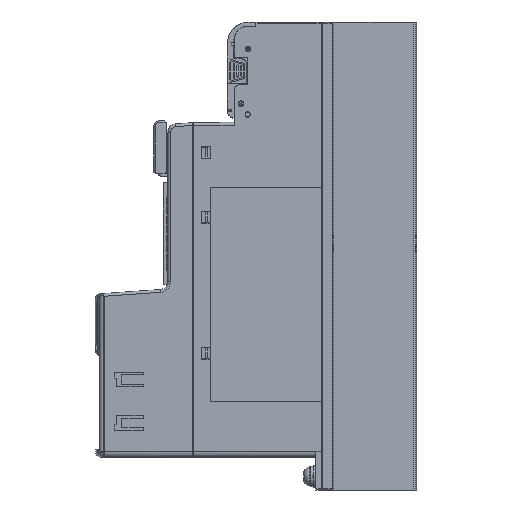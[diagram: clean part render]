
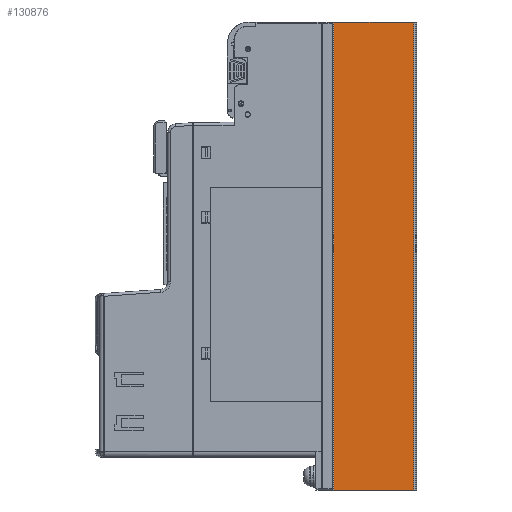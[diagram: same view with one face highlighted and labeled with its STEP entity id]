
A CAD part, left-side view. The second image highlights one B-rep face of the part: STEP entity #130876.
In plain terms, the highlighted planar face has unit normal (-1, 0, 0).
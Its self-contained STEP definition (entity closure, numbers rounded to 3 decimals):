
#631 = CARTESIAN_POINT ( 'NONE',  ( -23.3, -4.5, 86. ) ) ;
#16358 = DIRECTION ( 'NONE',  ( 0., 0., -1. ) ) ;
#18074 = VECTOR ( 'NONE', #252722, 1000. ) ;
#23116 = CARTESIAN_POINT ( 'NONE',  ( -23.3, -4., 86. ) ) ;
#29967 = EDGE_CURVE ( 'NONE', #147005, #81287, #262467, .T. ) ;
#31330 = CARTESIAN_POINT ( 'NONE',  ( -23.3, -33.9, 86. ) ) ;
#31440 = VECTOR ( 'NONE', #185788, 1000. ) ;
#34139 = CARTESIAN_POINT ( 'NONE',  ( -23.3, -33.9, -86. ) ) ;
#47571 = CARTESIAN_POINT ( 'NONE',  ( -23.3, -4., 86. ) ) ;
#50570 = DIRECTION ( 'NONE',  ( 0., -1., 0. ) ) ;
#54949 = CARTESIAN_POINT ( 'NONE',  ( -23.3, -33.9, 86. ) ) ;
#59826 = CARTESIAN_POINT ( 'NONE',  ( -23.3, -4.5, -86. ) ) ;
#59951 = EDGE_LOOP ( 'NONE', ( #180850, #259171, #151684, #209678 ) ) ;
#60402 = EDGE_CURVE ( 'NONE', #147005, #190979, #267129, .T. ) ;
#67343 = DIRECTION ( 'NONE',  ( 1., 0., 0. ) ) ;
#71063 = LINE ( 'NONE', #276269, #262381 ) ;
#81287 = VERTEX_POINT ( 'NONE', #54949 ) ;
#83596 = CARTESIAN_POINT ( 'NONE',  ( -23.3, -4.5, -86. ) ) ;
#86636 = FACE_OUTER_BOUND ( 'NONE', #59951, .T. ) ;
#91078 = DIRECTION ( 'NONE',  ( 0., 1., 0. ) ) ;
#130876 = ADVANCED_FACE ( 'NONE', ( #86636 ), #271415, .F. ) ;
#147005 = VERTEX_POINT ( 'NONE', #631 ) ;
#151684 = ORIENTED_EDGE ( 'NONE', *, *, #199524, .T. ) ;
#169812 = LINE ( 'NONE', #31330, #31440 ) ;
#180850 = ORIENTED_EDGE ( 'NONE', *, *, #29967, .F. ) ;
#185788 = DIRECTION ( 'NONE',  ( 0., 0., 1. ) ) ;
#190979 = VERTEX_POINT ( 'NONE', #59826 ) ;
#199524 = EDGE_CURVE ( 'NONE', #190979, #277595, #71063, .T. ) ;
#209678 = ORIENTED_EDGE ( 'NONE', *, *, #252082, .T. ) ;
#241572 = AXIS2_PLACEMENT_3D ( 'NONE', #47571, #67343, #91078 ) ;
#252082 = EDGE_CURVE ( 'NONE', #277595, #81287, #169812, .T. ) ;
#252722 = DIRECTION ( 'NONE',  ( 0., -1., 0. ) ) ;
#259171 = ORIENTED_EDGE ( 'NONE', *, *, #60402, .T. ) ;
#262381 = VECTOR ( 'NONE', #50570, 1000. ) ;
#262467 = LINE ( 'NONE', #23116, #18074 ) ;
#267129 = LINE ( 'NONE', #83596, #291849 ) ;
#271415 = PLANE ( 'NONE',  #241572 ) ;
#276269 = CARTESIAN_POINT ( 'NONE',  ( -23.3, -4., -86. ) ) ;
#277595 = VERTEX_POINT ( 'NONE', #34139 ) ;
#291849 = VECTOR ( 'NONE', #16358, 1000. ) ;
